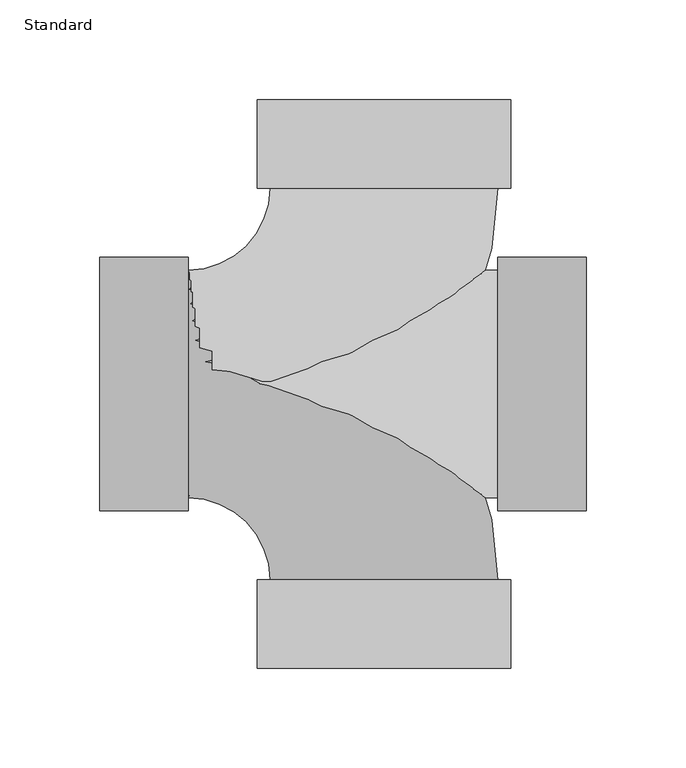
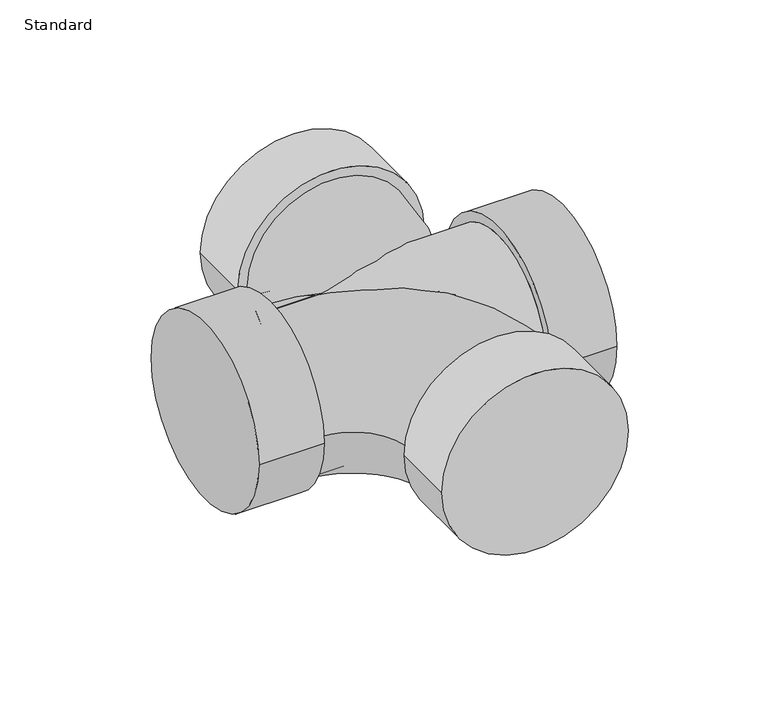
"""IFC4 building model written with IfcOpenShell, lengths in millimetres: pipe fitting geometry, Té sanitaire double - PVC - Nom. 40 - DWV : Standard."""

from ifc_helpers import new_model, si_unit, point, frame, origin, place, context, project, spatial, circle_curve, ellipse_curve, trimmed, source, transform, mapped, element, save
from ifc_brep_helpers import plane_surface, cylinder_surface, revolved_surface, advanced_brep


def standard_208b0893(model_context):
    return source(origin(), model_context, "Body", "AdvancedBrep", [
        advanced_brep(
        [(-98.425, -57.15, 0.0), (-98.425, 57.15, 0.0), (-57.15, -98.425, 0.0), (57.15, -98.425, 0.0), (63.754, -142.875, 0.0), (-63.754, -142.875, 0.0), (63.754, -98.425, 0.0), (-63.754, -98.425, 0.0)],
        [
            (0, 1, circle_curve(frame((-98.425, 0.0, 0.0), z_axis=(-1.0, 0.0, 0.0), x_axis=(0.0, 1.0, 0.0)), 57.15)),
            (1, 0, circle_curve(frame((-98.425, 0.0, 0.0), z_axis=(-1.0, 0.0, 0.0), x_axis=(0.0, 1.0, 0.0)), 57.15)),
            (0, 2, circle_curve(frame((-98.425, -98.425, 0.0), z_axis=(0.0, 0.0, -1.0), x_axis=(0.0, 1.0, 0.0)), 41.275)),
            (2, 3, circle_curve(frame((0.0, -98.425, 0.0), z_axis=(0.0, 1.0, 0.0), x_axis=(1.0, 0.0, 0.0)), 57.15)),
            (3, 1, circle_curve(frame((-98.425, -98.425, 0.0), z_axis=(0.0, 0.0, 1.0), x_axis=(0.0, 1.0, 0.0)), 155.575)),
            (3, 2, circle_curve(frame((0.0, -98.425, 0.0), z_axis=(0.0, 1.0, 0.0), x_axis=(1.0, 0.0, 0.0)), 57.15)),
            (4, 5, circle_curve(frame((0.0, -142.875, 0.0), z_axis=(0.0, -1.0, 0.0), x_axis=(-1.0, 0.0, 0.0)), 63.754)),
            (5, 4, circle_curve(frame((0.0, -142.875, 0.0), z_axis=(0.0, -1.0, 0.0), x_axis=(-1.0, 0.0, 0.0)), 63.754)),
            (6, 7, circle_curve(frame((0.0, -98.425, 0.0), z_axis=(0.0, 1.0, 0.0), x_axis=(-1.0, 0.0, 0.0)), 63.754)),
            (7, 6, circle_curve(frame((0.0, -98.425, 0.0), z_axis=(0.0, 1.0, 0.0), x_axis=(-1.0, 0.0, 0.0)), 63.754)),
            (4, 6),
            (7, 5),
        ],
        [
            plane_surface(frame((-98.425, 0.0, 0.0), z_axis=(-1.0, 0.0, 0.0), x_axis=(0.0, 0.0, 1.0))),
            revolved_surface(trimmed(ellipse_curve(frame((-98.425, 0.0, 0.0), z_axis=(-1.0, 0.0, 0.0), x_axis=(0.0, 1.0, 0.0)), 57.15, 57.15), [point((-98.425, -57.15, 0.0))], [point((-98.425, 57.15, 0.0))], True, "CARTESIAN"), (-98.425, -98.425, 0.0), (0.0, 0.0, -1.0)),
            revolved_surface(trimmed(ellipse_curve(frame((-98.425, 0.0, 0.0), z_axis=(-1.0, 0.0, 0.0), x_axis=(0.0, 1.0, 0.0)), 57.15, 57.15), [point((-98.425, 57.15, 0.0))], [point((-98.425, -57.15, 0.0))], True, "CARTESIAN"), (-98.425, -98.425, 0.0), (0.0, 0.0, -1.0)),
            plane_surface(frame((0.0, -142.875, 0.0), z_axis=(0.0, -1.0, 0.0), x_axis=(0.0, 0.0, 1.0))),
            plane_surface(frame((0.0, -98.425, 0.0), z_axis=(0.0, 1.0, 0.0), x_axis=(0.0, 0.0, 1.0))),
            cylinder_surface(frame((0.0, -142.875, 0.0), z_axis=(0.0, -1.0, 0.0), x_axis=(-1.0, 0.0, 0.0)), 63.754),
        ],
        [
            (0, [[1, 2]]),
            (1, [[-1, 3, 4, 5]]),
            (2, [[-2, -5, 6, -3]]),
            (3, [[7, 8]]),
            (4, [[9, 10], [-4, -6]]),
            (5, [[-7, 11, -10, 12]]),
            (5, [[-8, -12, -9, -11]]),
        ],
    ),
        advanced_brep(
        [(-98.425, -57.15, 0.0), (-98.425, 57.15, 0.0), (57.15, 98.425, 0.0), (-57.15, 98.425, 0.0), (63.754, 98.425, 0.0), (-63.754, 98.425, 0.0), (63.754, 142.875, 0.0), (-63.754, 142.875, 0.0)],
        [
            (0, 1, circle_curve(frame((-98.425, 0.0, 0.0), z_axis=(-1.0, 0.0, 0.0), x_axis=(0.0, 1.0, 0.0)), 57.15)),
            (1, 0, circle_curve(frame((-98.425, 0.0, 0.0), z_axis=(-1.0, 0.0, 0.0), x_axis=(0.0, 1.0, 0.0)), 57.15)),
            (0, 2, circle_curve(frame((-98.425, 98.425, 0.0), z_axis=(0.0, 0.0, 1.0), x_axis=(0.0, -1.0, 0.0)), 155.575)),
            (2, 3, circle_curve(frame((0.0, 98.425, 0.0), z_axis=(0.0, -1.0, 0.0), x_axis=(-1.0, 0.0, 0.0)), 57.15)),
            (3, 1, circle_curve(frame((-98.425, 98.425, 0.0), z_axis=(0.0, 0.0, -1.0), x_axis=(0.0, -1.0, 0.0)), 41.275)),
            (3, 2, circle_curve(frame((0.0, 98.425, 0.0), z_axis=(0.0, -1.0, 0.0), x_axis=(-1.0, 0.0, 0.0)), 57.15)),
            (4, 5, circle_curve(frame((0.0, 98.425, 0.0), z_axis=(0.0, -1.0, 0.0), x_axis=(-1.0, 0.0, 0.0)), 63.754)),
            (5, 4, circle_curve(frame((0.0, 98.425, 0.0), z_axis=(0.0, -1.0, 0.0), x_axis=(-1.0, 0.0, 0.0)), 63.754)),
            (6, 7, circle_curve(frame((0.0, 142.875, 0.0), z_axis=(0.0, 1.0, 0.0), x_axis=(-1.0, 0.0, 0.0)), 63.754)),
            (7, 6, circle_curve(frame((0.0, 142.875, 0.0), z_axis=(0.0, 1.0, 0.0), x_axis=(-1.0, 0.0, 0.0)), 63.754)),
            (4, 6),
            (7, 5),
        ],
        [
            plane_surface(frame((-98.425, 0.0, 0.0), z_axis=(-1.0, 0.0, 0.0), x_axis=(0.0, 0.0, 1.0))),
            revolved_surface(trimmed(ellipse_curve(frame((-98.425, 0.0, 0.0), z_axis=(-1.0, 0.0, 0.0), x_axis=(0.0, 1.0, 0.0)), 57.15, 57.15), [point((-98.425, -57.15, 0.0))], [point((-98.425, 57.15, 0.0))], True, "CARTESIAN"), (-98.425, 98.425, 0.0), (0.0, 0.0, 1.0)),
            revolved_surface(trimmed(ellipse_curve(frame((-98.425, 0.0, 0.0), z_axis=(-1.0, 0.0, 0.0), x_axis=(0.0, 1.0, 0.0)), 57.15, 57.15), [point((-98.425, 57.15, 0.0))], [point((-98.425, -57.15, 0.0))], True, "CARTESIAN"), (-98.425, 98.425, 0.0), (0.0, 0.0, 1.0)),
            plane_surface(frame((0.0, 98.425, 0.0), z_axis=(0.0, -1.0, 0.0), x_axis=(0.0, 0.0, 1.0))),
            plane_surface(frame((0.0, 142.875, 0.0), z_axis=(0.0, 1.0, 0.0), x_axis=(0.0, 0.0, 1.0))),
            cylinder_surface(frame((0.0, 98.425, 0.0), z_axis=(0.0, -1.0, 0.0), x_axis=(-1.0, 0.0, 0.0)), 63.754),
        ],
        [
            (0, [[1, 2]]),
            (1, [[-1, 3, 4, 5]]),
            (2, [[-2, -5, 6, -3]]),
            (3, [[7, 8], [-4, -6]]),
            (4, [[9, 10]]),
            (5, [[-7, 11, -10, 12]]),
            (5, [[-8, -12, -9, -11]]),
        ],
    ),
        advanced_brep(
        [(-142.875, -63.754, 0.0), (-142.875, 63.754, 0.0), (-98.425, -63.754, 0.0), (-98.425, 63.754, 0.0), (-98.425, 57.15, 0.0), (-98.425, -57.15, 0.0), (57.15, 57.15, 0.0), (57.15, -57.15, 0.0), (57.15, -63.754, 0.0), (57.15, 63.754, 0.0), (101.6, -63.754, 0.0), (101.6, 63.754, 0.0)],
        [
            (0, 1, circle_curve(frame((-142.875, 0.0, 0.0), z_axis=(-1.0, 0.0, 0.0), x_axis=(0.0, 1.0, 0.0)), 63.754)),
            (1, 0, circle_curve(frame((-142.875, 0.0, 0.0), z_axis=(-1.0, 0.0, 0.0), x_axis=(0.0, 1.0, 0.0)), 63.754)),
            (2, 3, circle_curve(frame((-98.425, 0.0, 0.0), z_axis=(1.0, 0.0, 0.0), x_axis=(0.0, 1.0, 0.0)), 63.754)),
            (3, 2, circle_curve(frame((-98.425, 0.0, 0.0), z_axis=(1.0, 0.0, 0.0), x_axis=(0.0, 1.0, 0.0)), 63.754)),
            (4, 5, circle_curve(frame((-98.425, 0.0, 0.0), z_axis=(-1.0, 0.0, 0.0), x_axis=(0.0, 0.0, -1.0)), 57.15)),
            (5, 4, circle_curve(frame((-98.425, 0.0, 0.0), z_axis=(-1.0, 0.0, 0.0), x_axis=(0.0, 0.0, 1.0)), 57.15)),
            (0, 2),
            (3, 1),
            (4, 6),
            (6, 7, circle_curve(frame((57.15, 0.0, 0.0), z_axis=(-1.0, 0.0, 0.0), x_axis=(0.0, 0.0, -1.0)), 57.15)),
            (7, 5),
            (7, 6, circle_curve(frame((57.15, 0.0, 0.0), z_axis=(-1.0, 0.0, 0.0), x_axis=(0.0, 0.0, 1.0)), 57.15)),
            (8, 9, circle_curve(frame((57.15, 0.0, 0.0), z_axis=(-1.0, 0.0, 0.0), x_axis=(0.0, 1.0, 0.0)), 63.754)),
            (9, 8, circle_curve(frame((57.15, 0.0, 0.0), z_axis=(-1.0, 0.0, 0.0), x_axis=(0.0, 1.0, 0.0)), 63.754)),
            (10, 11, circle_curve(frame((101.6, 0.0, 0.0), z_axis=(1.0, 0.0, 0.0), x_axis=(0.0, 1.0, 0.0)), 63.754)),
            (11, 10, circle_curve(frame((101.6, 0.0, 0.0), z_axis=(1.0, 0.0, 0.0), x_axis=(0.0, 1.0, 0.0)), 63.754)),
            (8, 10),
            (11, 9),
        ],
        [
            plane_surface(frame((-142.875, 0.0, 0.0), z_axis=(-1.0, 0.0, 0.0), x_axis=(0.0, 0.0, 1.0))),
            plane_surface(frame((-98.425, 0.0, 0.0), z_axis=(1.0, 0.0, 0.0), x_axis=(0.0, 0.0, 1.0))),
            cylinder_surface(frame((-142.875, 0.0, 0.0), z_axis=(-1.0, 0.0, 0.0), x_axis=(0.0, 1.0, 0.0)), 63.754),
            cylinder_surface(frame((-98.425, 0.0, 0.0), z_axis=(1.0, 0.0, 0.0), x_axis=(0.0, 0.0, -1.0)), 57.15),
            cylinder_surface(frame((-98.425, 0.0, 0.0), z_axis=(1.0, 0.0, 0.0), x_axis=(0.0, 0.0, 1.0)), 57.15),
            plane_surface(frame((57.15, 0.0, 0.0), z_axis=(-1.0, 0.0, 0.0), x_axis=(0.0, 0.0, 1.0))),
            plane_surface(frame((101.6, 0.0, 0.0), z_axis=(1.0, 0.0, 0.0), x_axis=(0.0, 0.0, 1.0))),
            cylinder_surface(frame((57.15, 0.0, 0.0), z_axis=(-1.0, 0.0, 0.0), x_axis=(0.0, 1.0, 0.0)), 63.754),
        ],
        [
            (0, [[1, 2]]),
            (1, [[3, 4], [5, 6]]),
            (2, [[-1, 7, -4, 8]]),
            (2, [[-2, -8, -3, -7]]),
            (3, [[9, 10, 11, -5]]),
            (4, [[-9, -6, -11, 12]]),
            (5, [[13, 14], [-10, -12]]),
            (6, [[15, 16]]),
            (7, [[-13, 17, -16, 18]]),
            (7, [[-14, -18, -15, -17]]),
        ],
    ),
    ])


if __name__ == "__main__":
    model = new_model("IFC4")
    model_context = context("Model", 3, world=origin())
    ifc_project = project(units=[si_unit("LENGTHUNIT", "METRE", prefix="MILLI")], contexts=[model_context])
    site = spatial("IfcSite", under=ifc_project)
    building = spatial("IfcBuilding", under=site)
    placement = place(None, origin())
    standard_shape = standard_208b0893(model_context)
    element("IfcPipeFitting", 1, ObjectType="Té sanitaire double - PVC - Nom. 40 - DWV : Standard", at=placement, inside=building, context=model_context, shape_type="MappedRepresentation", body=[
        mapped(standard_shape, transform((0.0, 0.0, 0.0), x_axis=(1.0, 0.0, 0.0), y_axis=(0.0, 1.0, 0.0), z_axis=(0.0, 0.0, 1.0))),
    ])
    save(model, "model.ifc")
